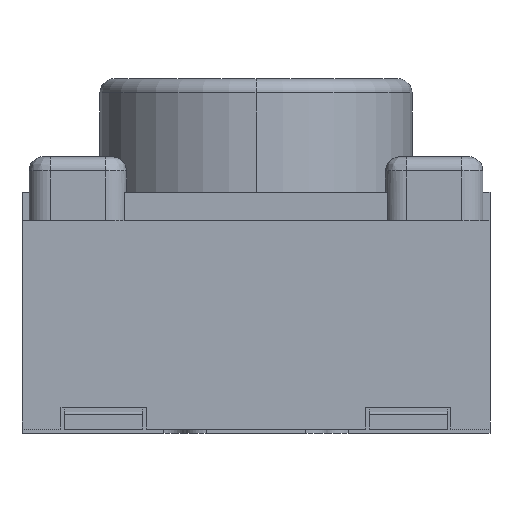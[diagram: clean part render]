
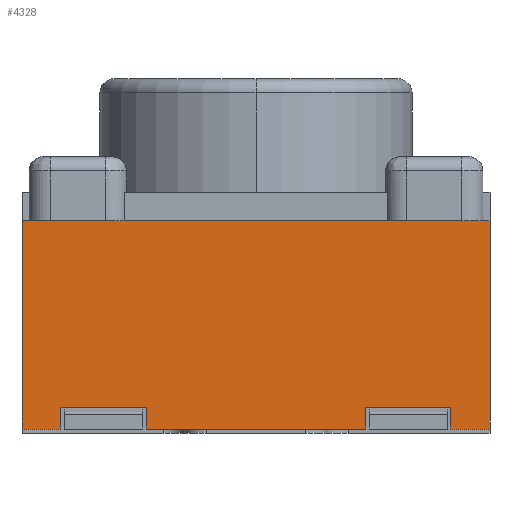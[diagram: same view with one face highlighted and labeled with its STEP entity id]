
A CAD part, left-side view. The second image highlights one B-rep face of the part: STEP entity #4328.
In plain terms, the highlighted planar face has unit normal (-1, 0, 0).
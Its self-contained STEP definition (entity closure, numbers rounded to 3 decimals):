
#1468=DIRECTION('',(0.,-1.,0.));
#1469=VECTOR('',#1468,3.3);
#1470=CARTESIAN_POINT('',(-2.1,1.65,0.));
#1471=LINE('',#1470,#1469);
#1765=DIRECTION('',(0.,0.,1.));
#1766=VECTOR('',#1765,1.47);
#1767=CARTESIAN_POINT('',(-2.1,1.65,-1.47));
#1768=LINE('',#1767,#1766);
#1786=DIRECTION('',(0.,1.,0.));
#1787=VECTOR('',#1786,0.6);
#1788=CARTESIAN_POINT('',(-2.1,-1.375,-1.32));
#1789=LINE('',#1788,#1787);
#1793=DIRECTION('',(0.,0.,1.));
#1794=VECTOR('',#1793,0.15);
#1795=CARTESIAN_POINT('',(-2.1,-0.775,-1.47));
#1796=LINE('',#1795,#1794);
#1800=DIRECTION('',(0.,0.,1.));
#1801=VECTOR('',#1800,0.15);
#1802=CARTESIAN_POINT('',(-2.1,0.775,-1.47));
#1803=LINE('',#1802,#1801);
#1807=DIRECTION('',(0.,1.,0.));
#1808=VECTOR('',#1807,0.6);
#1809=CARTESIAN_POINT('',(-2.1,0.775,-1.32));
#1810=LINE('',#1809,#1808);
#1814=DIRECTION('',(0.,0.,1.));
#1815=VECTOR('',#1814,0.15);
#1816=CARTESIAN_POINT('',(-2.1,1.375,-1.47));
#1817=LINE('',#1816,#1815);
#1821=DIRECTION('',(0.,0.,1.));
#1822=VECTOR('',#1821,0.15);
#1823=CARTESIAN_POINT('',(-2.1,-1.375,-1.47));
#1824=LINE('',#1823,#1822);
#2372=DIRECTION('',(0.,1.,0.));
#2373=VECTOR('',#2372,0.275);
#2374=CARTESIAN_POINT('',(-2.1,1.375,-1.47));
#2375=LINE('',#2374,#2373);
#2386=DIRECTION('',(0.,1.,0.));
#2387=VECTOR('',#2386,1.55);
#2388=CARTESIAN_POINT('',(-2.1,-0.775,-1.47));
#2389=LINE('',#2388,#2387);
#2474=DIRECTION('',(0.,1.,0.));
#2475=VECTOR('',#2474,0.275);
#2476=CARTESIAN_POINT('',(-2.1,-1.65,-1.47));
#2477=LINE('',#2476,#2475);
#2523=DIRECTION('',(0.,0.,-1.));
#2524=VECTOR('',#2523,1.47);
#2525=CARTESIAN_POINT('',(-2.1,-1.65,0.));
#2526=LINE('',#2525,#2524);
#3589=CARTESIAN_POINT('',(-2.1,1.65,0.));
#3591=VERTEX_POINT('',#3589);
#3596=CARTESIAN_POINT('',(-2.1,-1.65,0.));
#3597=VERTEX_POINT('',#3596);
#3618=CARTESIAN_POINT('',(-2.1,1.65,-1.47));
#3619=VERTEX_POINT('',#3618);
#3636=CARTESIAN_POINT('',(-2.1,-1.65,-1.47));
#3637=VERTEX_POINT('',#3636);
#3828=CARTESIAN_POINT('',(-2.1,-1.375,-1.32));
#3829=CARTESIAN_POINT('',(-2.1,-0.775,-1.32));
#3830=VERTEX_POINT('',#3828);
#3831=VERTEX_POINT('',#3829);
#3832=CARTESIAN_POINT('',(-2.1,0.775,-1.32));
#3833=CARTESIAN_POINT('',(-2.1,1.375,-1.32));
#3834=VERTEX_POINT('',#3832);
#3835=VERTEX_POINT('',#3833);
#3836=CARTESIAN_POINT('',(-2.1,1.375,-1.47));
#3837=VERTEX_POINT('',#3836);
#3838=CARTESIAN_POINT('',(-2.1,0.775,-1.47));
#3839=VERTEX_POINT('',#3838);
#3840=CARTESIAN_POINT('',(-2.1,-0.775,-1.47));
#3841=VERTEX_POINT('',#3840);
#3842=CARTESIAN_POINT('',(-2.1,-1.375,-1.47));
#3843=VERTEX_POINT('',#3842);
#4299=CARTESIAN_POINT('',(-2.1,-1.65,-1.5));
#4300=DIRECTION('',(-1.,0.,0.));
#4301=DIRECTION('',(0.,0.,1.));
#4302=AXIS2_PLACEMENT_3D('',#4299,#4300,#4301);
#4303=PLANE('',#4302);
#4305=ORIENTED_EDGE('',*,*,#4304,.T.);
#4307=ORIENTED_EDGE('',*,*,#4306,.F.);
#4309=ORIENTED_EDGE('',*,*,#4308,.T.);
#4311=ORIENTED_EDGE('',*,*,#4310,.T.);
#4313=ORIENTED_EDGE('',*,*,#4312,.T.);
#4315=ORIENTED_EDGE('',*,*,#4314,.F.);
#4317=ORIENTED_EDGE('',*,*,#4316,.T.);
#4318=ORIENTED_EDGE('',*,*,#4281,.T.);
#4319=ORIENTED_EDGE('',*,*,#4187,.T.);
#4321=ORIENTED_EDGE('',*,*,#4320,.T.);
#4323=ORIENTED_EDGE('',*,*,#4322,.T.);
#4325=ORIENTED_EDGE('',*,*,#4324,.T.);
#4326=EDGE_LOOP('',(#4305,#4307,#4309,#4311,#4313,#4315,#4317,#4318,#4319,#4321,
#4323,#4325));
#4327=FACE_OUTER_BOUND('',#4326,.F.);
#4187=EDGE_CURVE('',#3591,#3597,#1471,.T.);
#4281=EDGE_CURVE('',#3619,#3591,#1768,.T.);
#4304=EDGE_CURVE('',#3830,#3831,#1789,.T.);
#4306=EDGE_CURVE('',#3841,#3831,#1796,.T.);
#4308=EDGE_CURVE('',#3841,#3839,#2389,.T.);
#4310=EDGE_CURVE('',#3839,#3834,#1803,.T.);
#4312=EDGE_CURVE('',#3834,#3835,#1810,.T.);
#4314=EDGE_CURVE('',#3837,#3835,#1817,.T.);
#4316=EDGE_CURVE('',#3837,#3619,#2375,.T.);
#4320=EDGE_CURVE('',#3597,#3637,#2526,.T.);
#4322=EDGE_CURVE('',#3637,#3843,#2477,.T.);
#4324=EDGE_CURVE('',#3843,#3830,#1824,.T.);
#4328=ADVANCED_FACE('',(#4327),#4303,.T.);
